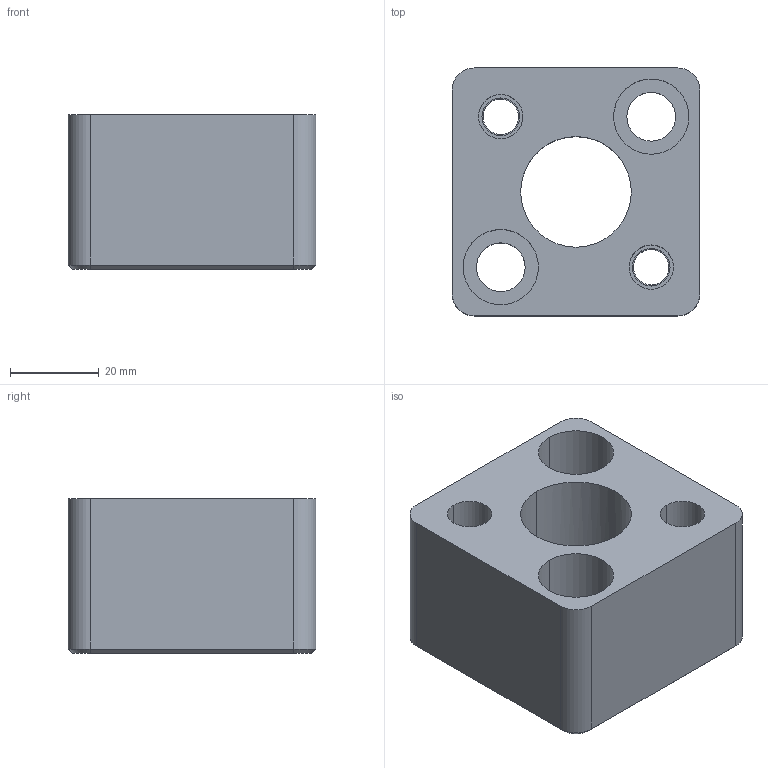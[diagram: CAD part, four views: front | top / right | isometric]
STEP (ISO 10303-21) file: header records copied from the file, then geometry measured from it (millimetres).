
FILE_DESCRIPTION(/* description */ (''),/* implementation_level */ '2;1');
FILE_NAME(/* name */ '3d_hsa-fn25_04182_r00.stp',/* time_stamp */ '2011-01-10T14:14:36+09:00',/* author */ ('MISUMI'),/* organization */ (''),/* preprocessor_version */ 'ST-DEVELOPER v11',/* originating_system */ 'UGS - NX 5.0',/* authorisation */ '');
FILE_SCHEMA (('CONFIG_CONTROL_DESIGN'));
Length unit declared in the file: millimetre
Products named in the file (1): 3d_hsa-fn25_04182_r00
Bounding box: 56 x 56 x 35 mm (x, y, z)
Volume: 73769.9 mm3; surface area: 20032.8 mm2
Topology: 1 solids, 1 shells, 55 faces, 132 edges, 85 vertices
Faces by surface type: cylinder 29, plane 20, cone 6
Entity records: 1733 total; most frequent: DIRECTION 303, CARTESIAN_POINT 293, ORIENTED_EDGE 264, EDGE_CURVE 132, AXIS2_PLACEMENT_3D 121, VERTEX_POINT 85, EDGE_LOOP 71, CIRCLE 65
